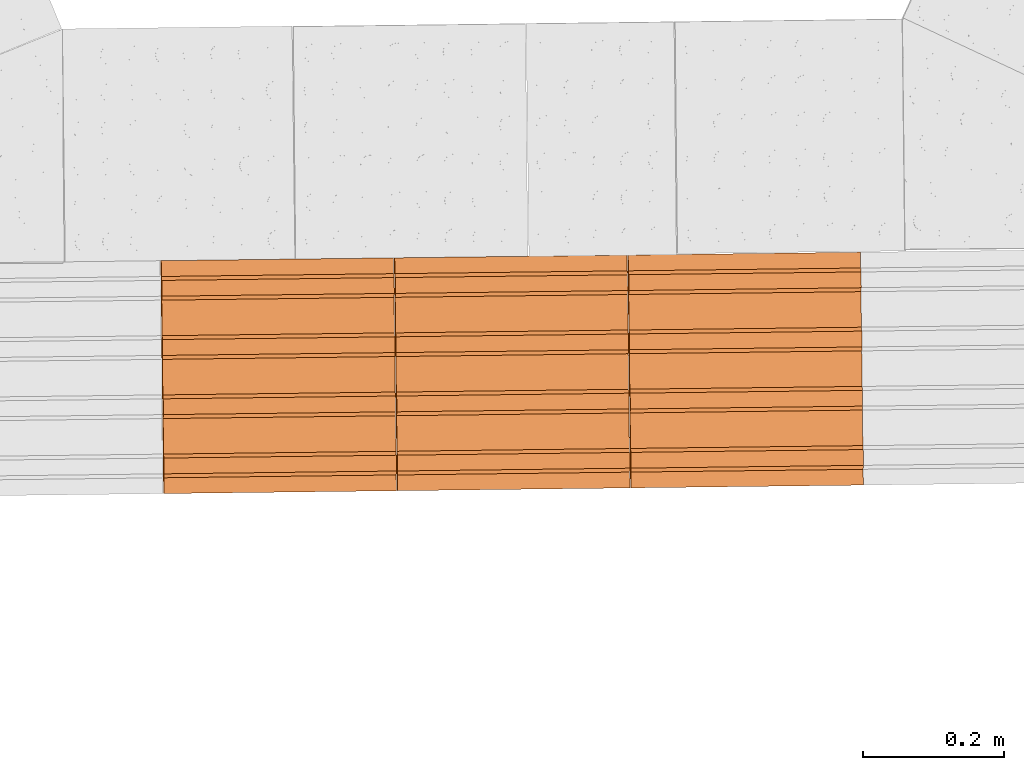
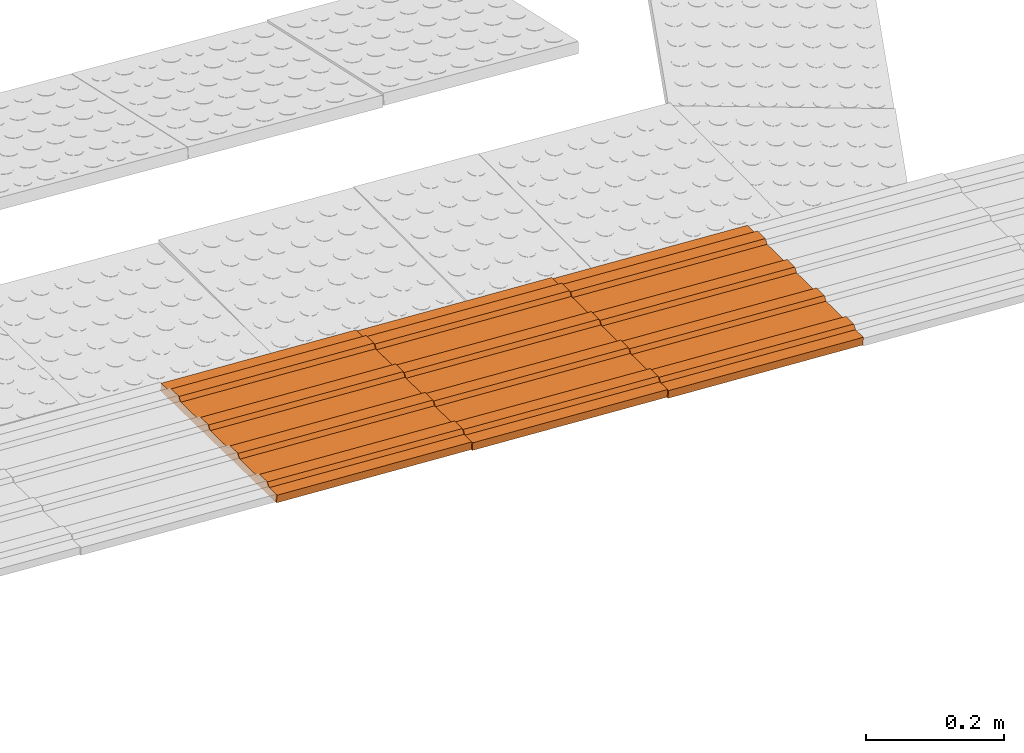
# One storey, part 204 of 237: 3 proxies.
"""IFC2X3 building model written with IfcOpenShell, lengths in millimetres."""

from ifc_helpers import new_model, entity, si_unit, converted_unit, derived_unit, money_unit, direction, frame, origin_with_axes, place, context, subcontext, project, spatial, open_shell, surface_model, source, transform, mapped, type_object, element, save


model = new_model("IFC2X3")

# Units and contexts
model_context = context("Model", 3, precision=0.01, world=origin_with_axes(), true_north=direction((0.0, 1.0)))
body_context = subcontext(model_context, "Body", "Model", "MODEL_VIEW")
ifc_project = project(units=[si_unit("LENGTHUNIT", "METRE", prefix="MILLI"), si_unit("AREAUNIT", "SQUARE_METRE"), si_unit("VOLUMEUNIT", "CUBIC_METRE"), converted_unit("PLANEANGLEUNIT", "DEGREE", entity("IfcPlaneAngleMeasure", 0.0174532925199), si_unit("PLANEANGLEUNIT", "RADIAN"), dimensions=[0, 0, 0, 0, 0, 0, 0]), money_unit("USD"), converted_unit("TIMEUNIT", "Year", entity("IfcTimeMeasure", 31556926.0), si_unit("TIMEUNIT", "SECOND"), dimensions=[0, 0, 1, 0, 0, 0, 0]), si_unit("MASSUNIT", "GRAM", prefix="KILO"), si_unit("THERMODYNAMICTEMPERATUREUNIT", "DEGREE_CELSIUS"), si_unit("LUMINOUSINTENSITYUNIT", "LUMEN"), si_unit("ENERGYUNIT", "JOULE", prefix="MEGA"), derived_unit("THERMALCONDUCTANCEUNIT", [(si_unit("POWERUNIT", "WATT"), 1), (si_unit("LENGTHUNIT", "METRE"), -1), (si_unit("THERMODYNAMICTEMPERATUREUNIT", "KELVIN"), -1)]), derived_unit("SPECIFICHEATCAPACITYUNIT", [(si_unit("ENERGYUNIT", "JOULE"), 1), (si_unit("MASSUNIT", "GRAM", prefix="KILO"), -1), (si_unit("THERMODYNAMICTEMPERATUREUNIT", "KELVIN"), -1)]), derived_unit("MASSDENSITYUNIT", [(si_unit("MASSUNIT", "GRAM", prefix="KILO"), 1), (si_unit("VOLUMEUNIT", "CUBIC_METRE"), -1)])], contexts=[model_context])

# Site, building, storey
site_placement = place(None, origin_with_axes())
site = spatial("IfcSite", under=ifc_project, at=site_placement, Name="Local", CompositionType="ELEMENT")
building_placement = place(site_placement, origin_with_axes())
building = spatial("IfcBuilding", under=site, at=building_placement, Name="Construção", CompositionType="ELEMENT")
storey_placement = place(building_placement, origin_with_axes())
storey = spatial("IfcBuildingStorey", under=building, at=storey_placement, Name="Pavimento Térreo", CompositionType="ELEMENT", Elevation=0.0)

# Proxies
building_element_proxy_type = type_object("IfcBuildingElementProxyType", Name="Piso Direcional 27", PredefinedType="NOTDEFINED")
shared_shape = source(origin_with_axes(), body_context, "Body", "SurfaceModel", [
    surface_model("IfcShellBasedSurfaceModel", [(-0.281015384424, -47.258225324, 4.01870722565), (328.915121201, -47.258225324, 27.0383435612), (328.450078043, -41.665004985, 33.6887705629), (-0.746058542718, -41.665004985, 10.6691342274)], [open_shell([[[0, 1, 2, 3]]])]),
    surface_model("IfcShellBasedSurfaceModel", [(329.845207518, -153.529411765, 13.7374895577), (329.845207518, 176.470588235, 13.7374895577), (328.915121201, 176.470588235, 27.0383435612), (328.915121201, 154.097706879, 27.0383435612), (328.450078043, 148.50448654, 33.6887705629), (328.450078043, 126.131605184, 33.6887705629), (328.915121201, 120.538384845, 27.0383435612), (328.915121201, 70.1994017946, 27.0383435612), (328.450078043, 64.6061814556, 33.6887705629), (328.450078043, 42.2333000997, 33.6887705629), (328.915121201, 36.6400797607, 27.0383435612), (328.915121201, -13.6989032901, 27.0383435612), (328.450078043, -19.2921236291, 33.6887705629), (328.450078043, -41.665004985, 33.6887705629), (328.915121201, -47.258225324, 27.0383435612), (328.915121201, -97.5972083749, 27.0383435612), (328.450078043, -103.190428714, 33.6887705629), (328.450078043, -125.56331007, 33.6887705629), (328.915121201, -131.156530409, 27.0383435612), (328.915121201, -153.529411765, 27.0383435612)], [open_shell([[[0, 1, 2, 3, 4, 5, 6, 7, 8, 9, 10, 11, 12, 13, 14, 15, 16, 17, 18, 19]]])]),
    surface_model("IfcShellBasedSurfaceModel", [(-0.746058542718, -19.2921236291, 10.6691342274), (328.450078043, -19.2921236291, 33.6887705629), (328.915121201, -13.6989032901, 27.0383435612), (-0.281015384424, -13.6989032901, 4.01870722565)], [open_shell([[[0, 1, 2, 3]]])]),
    surface_model("IfcShellBasedSurfaceModel", [(-0.746058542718, -103.190428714, 10.6691342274), (328.450078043, -103.190428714, 33.6887705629), (328.915121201, -97.5972083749, 27.0383435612), (-0.281015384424, -97.5972083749, 4.01870722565)], [open_shell([[[0, 1, 2, 3]]])]),
    surface_model("IfcShellBasedSurfaceModel", [(-0.746058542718, 64.6061814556, 10.6691342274), (328.450078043, 64.6061814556, 33.6887705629), (328.915121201, 70.1994017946, 27.0383435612), (-0.281015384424, 70.1994017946, 4.01870722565)], [open_shell([[[0, 1, 2, 3]]])]),
    surface_model("IfcShellBasedSurfaceModel", [(-0.281015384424, 36.6400797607, 4.01870722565), (328.915121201, 36.6400797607, 27.0383435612), (328.450078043, 42.2333000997, 33.6887705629), (-0.746058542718, 42.2333000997, 10.6691342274)], [open_shell([[[0, 1, 2, 3]]])]),
    surface_model("IfcShellBasedSurfaceModel", [(-0.281015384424, -131.156530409, 4.01870722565), (328.915121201, -131.156530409, 27.0383435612), (328.450078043, -125.56331007, 33.6887705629), (-0.746058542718, -125.56331007, 10.6691342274)], [open_shell([[[0, 1, 2, 3]]])]),
    surface_model("IfcShellBasedSurfaceModel", [(-0.281015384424, 176.470588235, 4.01870722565), (-0.281015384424, 154.097706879, 4.01870722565), (328.915121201, 154.097706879, 27.0383435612), (328.915121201, 176.470588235, 27.0383435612)], [open_shell([[[0, 1, 2, 3]]])]),
    surface_model("IfcShellBasedSurfaceModel", [(-0.281015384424, 120.538384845, 4.01870722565), (328.915121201, 120.538384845, 27.0383435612), (328.450078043, 126.131605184, 33.6887705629), (-0.746058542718, 126.131605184, 10.6691342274)], [open_shell([[[0, 1, 2, 3]]])]),
    surface_model("IfcShellBasedSurfaceModel", [(-0.746058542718, 148.50448654, 10.6691342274), (328.450078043, 148.50448654, 33.6887705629), (328.915121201, 154.097706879, 27.0383435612), (-0.281015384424, 154.097706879, 4.01870722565)], [open_shell([[[0, 1, 2, 3]]])]),
    surface_model("IfcShellBasedSurfaceModel", [(-0.281015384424, 36.6400797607, 4.01870722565), (-0.281015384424, -13.6989032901, 4.01870722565), (328.915121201, -13.6989032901, 27.0383435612), (328.915121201, 36.6400797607, 27.0383435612)], [open_shell([[[0, 1, 2, 3]]])]),
    surface_model("IfcShellBasedSurfaceModel", [(-0.281015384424, 120.538384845, 4.01870722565), (-0.281015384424, 70.1994017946, 4.01870722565), (328.915121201, 70.1994017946, 27.0383435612), (328.915121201, 120.538384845, 27.0383435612)], [open_shell([[[0, 1, 2, 3]]])]),
    surface_model("IfcShellBasedSurfaceModel", [(-0.746058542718, 148.50448654, 10.6691342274), (-0.746058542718, 126.131605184, 10.6691342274), (328.450078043, 126.131605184, 33.6887705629), (328.450078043, 148.50448654, 33.6887705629)], [open_shell([[[0, 1, 2, 3]]])]),
    surface_model("IfcShellBasedSurfaceModel", [(-0.281015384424, 120.538384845, 4.01870722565), (-0.746058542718, 126.131605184, 10.6691342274), (-0.746058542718, 148.50448654, 10.6691342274), (-0.281015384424, 154.097706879, 4.01870722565), (-0.281015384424, 176.470588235, 4.01870722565), (0.649070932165, 176.470588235, -9.28214677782), (0.649070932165, -153.529411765, -9.28214677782), (-0.281015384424, -153.529411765, 4.01870722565), (-0.281015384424, -131.156530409, 4.01870722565), (-0.746058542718, -125.56331007, 10.6691342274), (-0.746058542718, -103.190428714, 10.6691342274), (-0.281015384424, -97.5972083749, 4.01870722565), (-0.281015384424, -47.258225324, 4.01870722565), (-0.746058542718, -41.665004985, 10.6691342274), (-0.746058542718, -19.2921236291, 10.6691342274), (-0.281015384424, -13.6989032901, 4.01870722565), (-0.281015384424, 36.6400797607, 4.01870722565), (-0.746058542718, 42.2333000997, 10.6691342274), (-0.746058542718, 64.6061814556, 10.6691342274), (-0.281015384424, 70.1994017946, 4.01870722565)], [open_shell([[[0, 1, 2, 3, 4, 5, 6, 7, 8, 9, 10, 11, 12, 13, 14, 15, 16, 17, 18, 19]]])]),
    surface_model("IfcShellBasedSurfaceModel", [(328.450078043, -41.665004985, 33.6887705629), (328.450078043, -19.2921236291, 33.6887705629), (-0.746058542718, -19.2921236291, 10.6691342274), (-0.746058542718, -41.665004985, 10.6691342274)], [open_shell([[[0, 1, 2, 3]]])]),
    surface_model("IfcShellBasedSurfaceModel", [(-0.281015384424, -47.258225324, 4.01870722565), (-0.281015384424, -97.5972083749, 4.01870722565), (328.915121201, -97.5972083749, 27.0383435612), (328.915121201, -47.258225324, 27.0383435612)], [open_shell([[[0, 1, 2, 3]]])]),
    surface_model("IfcShellBasedSurfaceModel", [(328.450078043, 42.2333000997, 33.6887705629), (328.450078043, 64.6061814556, 33.6887705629), (-0.746058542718, 64.6061814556, 10.6691342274), (-0.746058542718, 42.2333000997, 10.6691342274)], [open_shell([[[0, 1, 2, 3]]])]),
    surface_model("IfcShellBasedSurfaceModel", [(328.450078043, -125.56331007, 33.6887705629), (328.450078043, -103.190428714, 33.6887705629), (-0.746058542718, -103.190428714, 10.6691342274), (-0.746058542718, -125.56331007, 10.6691342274)], [open_shell([[[0, 1, 2, 3]]])]),
    surface_model("IfcShellBasedSurfaceModel", [(329.845207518, 176.470588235, 13.7374895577), (0.649070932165, 176.470588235, -9.28214677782), (-0.281015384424, 176.470588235, 4.01870722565), (328.915121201, 176.470588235, 27.0383435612)], [open_shell([[[0, 1, 2, 3]]])]),
    surface_model("IfcShellBasedSurfaceModel", [(329.845207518, -153.529411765, 13.7374895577), (0.649070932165, -153.529411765, -9.28214677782), (0.649070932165, 176.470588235, -9.28214677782), (329.845207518, 176.470588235, 13.7374895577)], [open_shell([[[0, 1, 2, 3]]])]),
    surface_model("IfcShellBasedSurfaceModel", [(328.915121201, -153.529411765, 27.0383435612), (328.915121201, -131.156530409, 27.0383435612), (-0.281015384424, -131.156530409, 4.01870722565), (-0.281015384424, -153.529411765, 4.01870722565)], [open_shell([[[0, 1, 2, 3]]])]),
    surface_model("IfcShellBasedSurfaceModel", [(0.649070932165, -153.529411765, -9.28214677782), (329.845207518, -153.529411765, 13.7374895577), (328.915121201, -153.529411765, 27.0383435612), (-0.281015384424, -153.529411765, 4.01870722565)], [open_shell([[[0, 1, 2, 3]]])]),
])
for number, where, z_axis, x_axis, name in (
    (1, (131817.022783, 37647.4581046, -7836.28641924), (0.0, 0.0, 1.0), (-0.999926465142, -0.012127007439, 0.0), "Objeto-0055"),
    (2, (131486.225073, 37643.4462234, -7810.60253231), (0.0, 0.0, 1.0), (-0.999926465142, -0.012127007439, 0.0), "Objeto-0055"),
    (3, (131155.413431, 37639.4341731, -7785.34413948), (0.0, 0.0, 1.0), (-0.999926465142, -0.012127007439, 0.0), "Objeto-0055"),
):
    element("IfcBuildingElementProxy", number, at=place(storey_placement, frame(where, z_axis=z_axis, x_axis=x_axis)), inside=storey, type_object=building_element_proxy_type, Name=name, context=body_context, shape_type="MappedRepresentation", body=[
        mapped(shared_shape, transform((0.0, 0.0, 0.0))),
    ])

save(model, "model.ifc")
